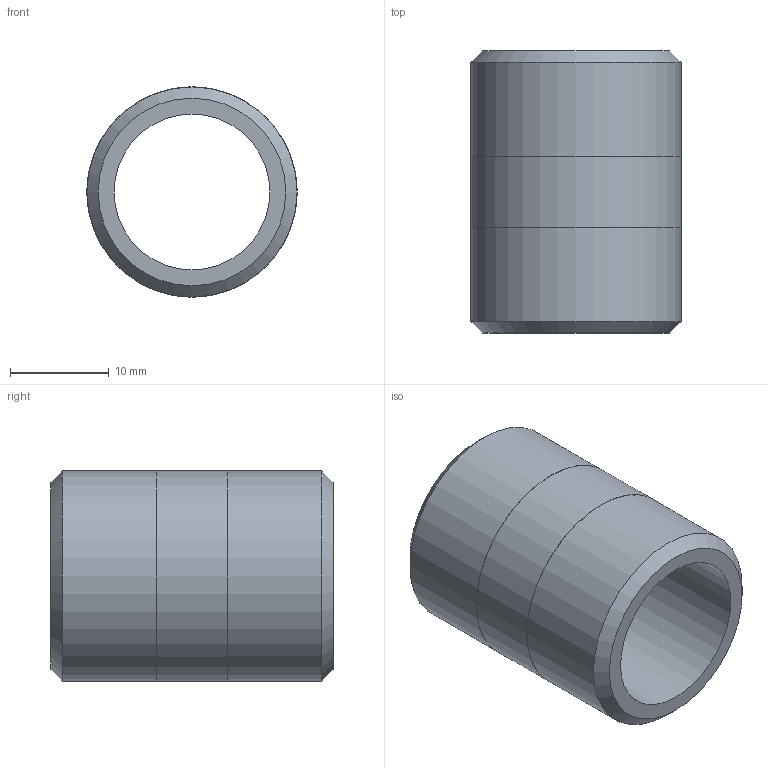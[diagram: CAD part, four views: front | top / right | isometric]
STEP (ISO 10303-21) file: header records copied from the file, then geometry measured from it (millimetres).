
FILE_DESCRIPTION(/* description */ (''),/* implementation_level */ '2;1');
FILE_NAME(/* name */ 'C:/Users/drich/Desktop/BPN12-CLOSE v1.step',/* time_stamp */ '2020-01-03T14:34:59-06:00',/* author */ (''),/* organization */ (''),/* preprocessor_version */ 'ST-DEVELOPER v18',/* originating_system */ 'Autodesk Translation Framework v8.12.0.6',/* authorisation */ '');
FILE_SCHEMA (('AUTOMOTIVE_DESIGN { 1 0 10303 214 3 1 1 }'));
Length unit declared in the file: inch
Products named in the file (1): BPN12-CLOSE
Bounding box: 21.34 x 28.57 x 21.34 mm (x, y, z)
Volume: 4494.2 mm3; surface area: 3560.3 mm2
Topology: 1 solids, 1 shells, 10 faces, 24 edges, 18 vertices
Faces by surface type: cylinder 4, plane 4, cone 2
Full cylindrical faces by diameter (mm): 15.799 x1, 21.285 x2, 21.336 x1
Entity records: 360 total; most frequent: DIRECTION 64, CARTESIAN_POINT 53, ORIENTED_EDGE 48, AXIS2_PLACEMENT_3D 29, EDGE_CURVE 24, CIRCLE 18, VERTEX_POINT 18, EDGE_LOOP 14
